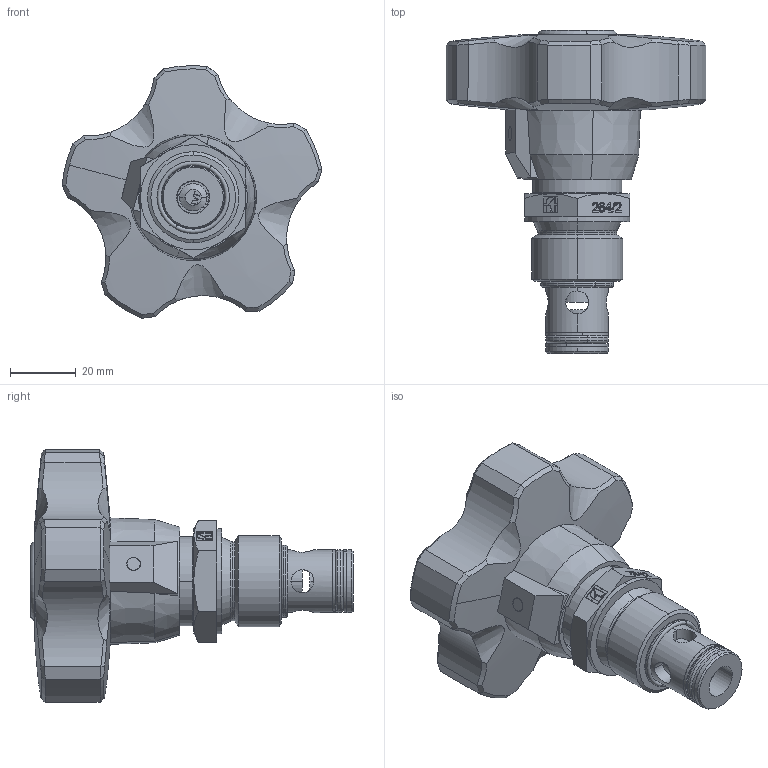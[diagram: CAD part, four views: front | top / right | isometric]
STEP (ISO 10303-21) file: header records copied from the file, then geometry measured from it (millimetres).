
FILE_DESCRIPTION (( 'STEP AP214' ), '1' );
FILE_NAME ('264-2-12volantino.STEP', '2014-11-11T20:59:26', ( '' ), ( '' ), 'SwSTEP 2.0', 'SolidWorks 2014', '' );
FILE_SCHEMA (( 'AUTOMOTIVE_DESIGN' ));
Length unit declared in the file: millimetre
Products named in the file (1): 264-2-12volantino
Bounding box: 78.97 x 98.12 x 76.81 mm (x, y, z)
Surface area: 25872 mm2 (no closed solid volume)
Topology: 0 solids, 11 shells, 392 faces, 1309 edges, 884 vertices
Faces by surface type: plane 174, cylinder 74, cone 71, bspline 53, torus 16, sphere 4
Entity records: 22094 total; most frequent: CARTESIAN_POINT 7108, ORIENTED_EDGE 2194, DIRECTION 1956, EDGE_CURVE 1309, VERTEX_POINT 884, VECTOR 718, LINE 718, AXIS2_PLACEMENT_3D 619
